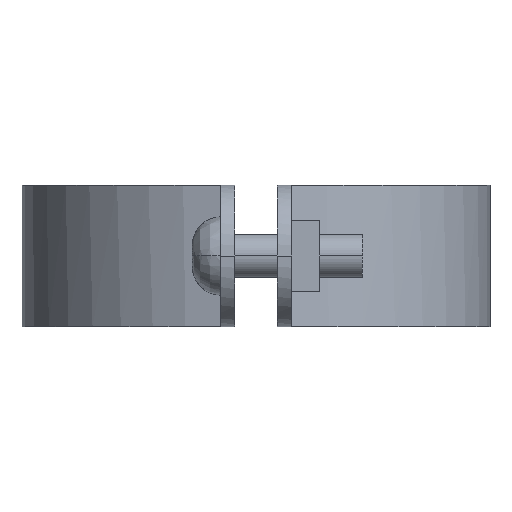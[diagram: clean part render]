
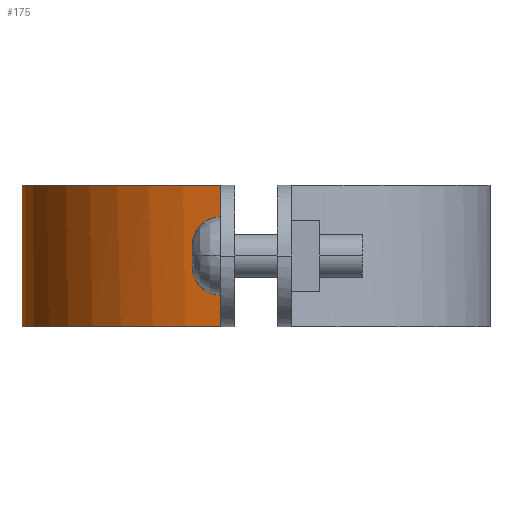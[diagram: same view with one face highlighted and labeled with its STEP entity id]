
A CAD part, left-side view. The second image highlights one B-rep face of the part: STEP entity #175.
In plain terms, the highlighted free-form (B-spline) face has degree [3, 1] with [4, 2] control points.
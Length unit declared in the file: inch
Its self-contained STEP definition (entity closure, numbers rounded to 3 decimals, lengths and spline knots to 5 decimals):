
#175=ADVANCED_FACE('',(#390),#391,.T.);
#390=FACE_OUTER_BOUND('',#698,.T.);
#391=B_SPLINE_SURFACE_WITH_KNOTS('',3,1,((#699,#700),(#701,#702),(#703,#704),(#705,#706)),.UNSPECIFIED.,.F.,.F.,.F.,(4,4),(2,2),(-1.0,-0.0),(0.0,1.25),.UNSPECIFIED.);
#698=EDGE_LOOP('',(#1418,#1419,#1420,#1421));
#699=CARTESIAN_POINT('',(2.74881,4.17814,0.0));
#700=CARTESIAN_POINT('',(2.74881,4.17814,1.25));
#701=CARTESIAN_POINT('',(1.7309,4.17814,0.0));
#702=CARTESIAN_POINT('',(1.7309,4.17814,1.25));
#703=CARTESIAN_POINT('',(0.86533,3.43515,0.0));
#704=CARTESIAN_POINT('',(0.86533,3.43515,1.25));
#705=CARTESIAN_POINT('',(0.7111,2.42897,0.0));
#706=CARTESIAN_POINT('',(0.7111,2.42897,1.25));
#1418=ORIENTED_EDGE('',*,*,#1991,.T.);
#1419=ORIENTED_EDGE('',*,*,#1992,.T.);
#1420=ORIENTED_EDGE('',*,*,#1993,.T.);
#1421=ORIENTED_EDGE('',*,*,#1994,.F.);
#1991=EDGE_CURVE('',#2294,#2295,#2296,.T.);
#1992=EDGE_CURVE('',#2295,#2297,#2298,.T.);
#1993=EDGE_CURVE('',#2297,#2299,#2300,.T.);
#1994=EDGE_CURVE('',#2294,#2299,#2301,.T.);
#2294=VERTEX_POINT('',#2768);
#2295=VERTEX_POINT('',#2769);
#2296=B_SPLINE_CURVE_WITH_KNOTS('',3,(#2770,#2771,#2772,#2773),.UNSPECIFIED.,.F.,.F.,(4,4),(-1.0,-0.0),.UNSPECIFIED.);
#2297=VERTEX_POINT('',#2774);
#2298=LINE('',#2775,#2776);
#2299=VERTEX_POINT('',#2777);
#2300=B_SPLINE_CURVE_WITH_KNOTS('',3,(#2778,#2779,#2780,#2781),.UNSPECIFIED.,.F.,.F.,(4,4),(0.0,1.0),.UNSPECIFIED.);
#2301=LINE('',#2782,#2783);
#2768=CARTESIAN_POINT('',(2.74881,4.17814,0.00012));
#2769=CARTESIAN_POINT('',(0.7111,2.42897,0.00012));
#2770=CARTESIAN_POINT('',(2.74881,4.17814,0.00012));
#2771=CARTESIAN_POINT('',(1.7309,4.17814,0.00012));
#2772=CARTESIAN_POINT('',(0.86533,3.43515,0.00012));
#2773=CARTESIAN_POINT('',(0.7111,2.42897,0.00012));
#2774=CARTESIAN_POINT('',(0.7111,2.42897,1.24992));
#2775=CARTESIAN_POINT('',(0.7111,2.42897,0.0));
#2776=VECTOR('',#3348,1.0);
#2777=CARTESIAN_POINT('',(2.74881,4.17814,1.24992));
#2778=CARTESIAN_POINT('',(0.7111,2.42897,1.24992));
#2779=CARTESIAN_POINT('',(0.86533,3.43515,1.24992));
#2780=CARTESIAN_POINT('',(1.7309,4.17814,1.24992));
#2781=CARTESIAN_POINT('',(2.74881,4.17814,1.24992));
#2782=CARTESIAN_POINT('',(2.74881,4.17814,0.0));
#2783=VECTOR('',#3349,1.0);
#3348=DIRECTION('',(0.0,0.0,1.0));
#3349=DIRECTION('',(0.0,0.0,1.0));
